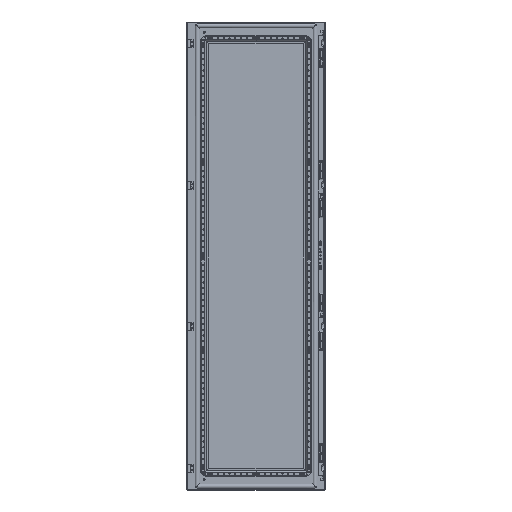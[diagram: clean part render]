
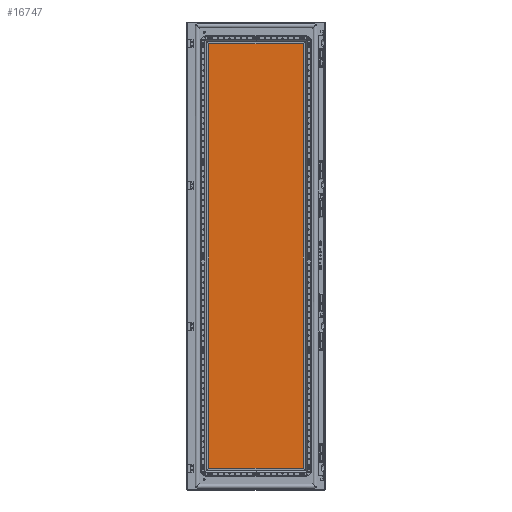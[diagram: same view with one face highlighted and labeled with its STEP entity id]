
A CAD part, top view. The second image highlights one B-rep face of the part: STEP entity #16747.
In plain terms, the highlighted planar face has unit normal (0, 0, 1).
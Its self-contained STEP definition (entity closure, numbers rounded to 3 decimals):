
#16747=ADVANCED_FACE('',(#66929),#66931,.F.);
#66929=FACE_BOUND('',#66930,.T.);
#66930=EDGE_LOOP('',(#113771,#113772,#113773,#113774));
#66931=PLANE('',#66932);
#66932=AXIS2_PLACEMENT_3D('',#66933,#66934,#66935);
#66933=CARTESIAN_POINT('',(0.,0.,6.5));
#66934=DIRECTION('',(0.,0.,-1.));
#66935=DIRECTION('',(0.,-1.,0.));
#113771=ORIENTED_EDGE('',*,*,#136163,.T.);
#113772=ORIENTED_EDGE('',*,*,#136164,.T.);
#113773=ORIENTED_EDGE('',*,*,#136165,.T.);
#113774=ORIENTED_EDGE('',*,*,#136166,.T.);
#136163=EDGE_CURVE('',#152018,#152019,#152020,.T.);
#136164=EDGE_CURVE('',#152019,#152021,#152022,.T.);
#136165=EDGE_CURVE('',#152021,#152023,#152024,.T.);
#136166=EDGE_CURVE('',#152023,#152018,#152025,.T.);
#152018=VERTEX_POINT('',#194460);
#152019=VERTEX_POINT('',#194461);
#152020=LINE('',#194462,#194463);
#152021=VERTEX_POINT('',#194465);
#152022=LINE('',#194466,#194467);
#152023=VERTEX_POINT('',#194469);
#152024=LINE('',#194470,#194471);
#152025=LINE('',#194473,#194474);
#194460=CARTESIAN_POINT('',(-212.5,912.5,6.5));
#194461=CARTESIAN_POINT('',(-212.5,-912.5,6.5));
#194462=CARTESIAN_POINT('',(-212.5,912.5,6.5));
#194463=VECTOR('',#194464,1.);
#194464=DIRECTION('',(0.,-1.,0.));
#194465=CARTESIAN_POINT('',(212.5,-912.5,6.5));
#194466=CARTESIAN_POINT('',(-212.5,-912.5,6.5));
#194467=VECTOR('',#194468,1.);
#194468=DIRECTION('',(1.,0.,0.));
#194469=CARTESIAN_POINT('',(212.5,912.5,6.5));
#194470=CARTESIAN_POINT('',(212.5,-912.5,6.5));
#194471=VECTOR('',#194472,1.);
#194472=DIRECTION('',(0.,1.,0.));
#194473=CARTESIAN_POINT('',(212.5,912.5,6.5));
#194474=VECTOR('',#194475,1.);
#194475=DIRECTION('',(-1.,0.,0.));
